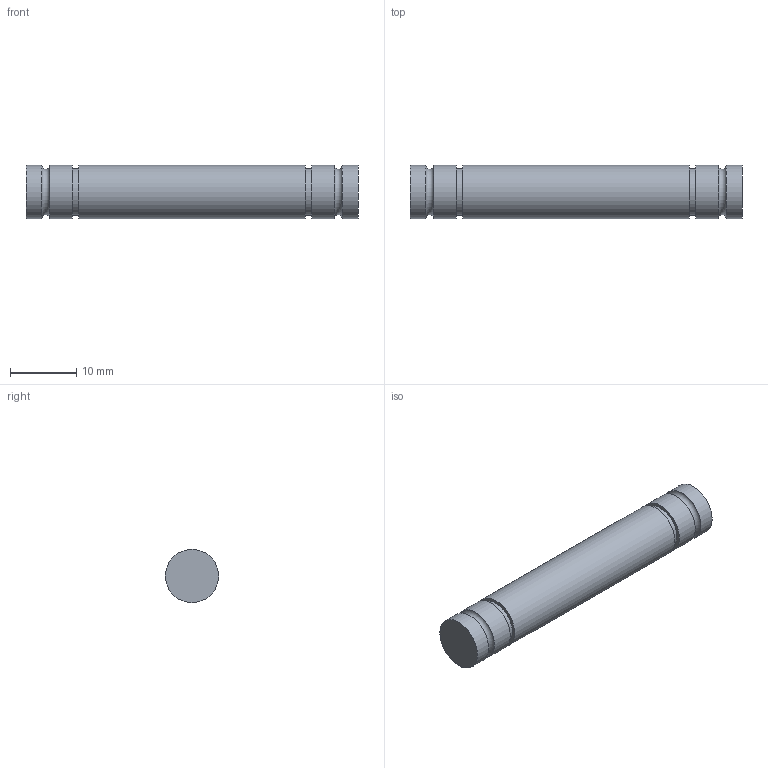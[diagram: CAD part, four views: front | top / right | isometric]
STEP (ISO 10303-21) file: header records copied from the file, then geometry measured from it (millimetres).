
FILE_DESCRIPTION(('Open CASCADE Model'),'2;1');
FILE_NAME('Open CASCADE Shape Model','2026-10-05T09:55:41',('Author'),( 'Open CASCADE'),'Open CASCADE STEP processor 7.9','Open CASCADE 7.9' ,'Unknown');
FILE_SCHEMA(('AUTOMOTIVE_DESIGN { 1 0 10303 214 1 1 1 1 }'));
Length unit declared in the file: millimetre
Products named in the file (1): Open CASCADE STEP translator 7.9 2
Bounding box: 50 x 8 x 8 mm (x, y, z)
Volume: 2464.5 mm3; surface area: 1423.8 mm2
Topology: 1 solids, 1 shells, 15 faces, 23 edges, 14 vertices
Faces by surface type: cylinder 7, plane 6, torus 2
Full cylindrical faces by diameter (mm): 7 x2, 8 x5
Entity records: 662 total; most frequent: CARTESIAN_POINT 123, DIRECTION 113, ORIENTED_EDGE 46, PCURVE 46, DEFINITIONAL_REPRESENTATION 46, LINE 43, VECTOR 43, AXIS2_PLACEMENT_3D 32
